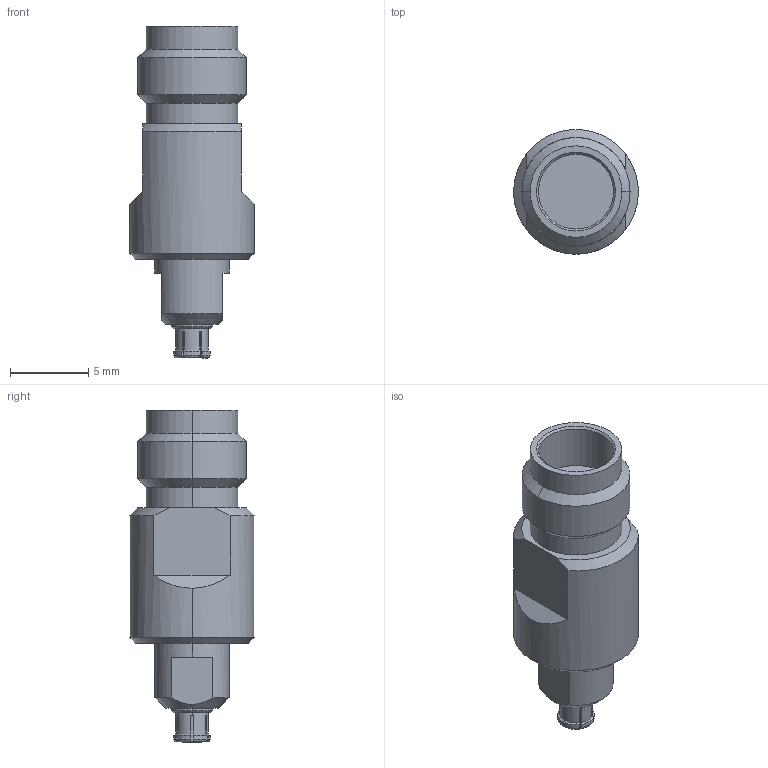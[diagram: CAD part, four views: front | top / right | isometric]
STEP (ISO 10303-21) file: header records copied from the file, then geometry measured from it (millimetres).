
FILE_DESCRIPTION (( 'STEP AP214' ), '1' );
FILE_NAME ('SF1133-6007.STEP', '2018-09-18T13:25:41', ( '' ), ( '' ), 'SwSTEP 2.0', 'SolidWorks 2016', '' );
FILE_SCHEMA (( 'AUTOMOTIVE_DESIGN' ));
Length unit declared in the file: inch
Products named in the file (1): SF1133-6007
Bounding box: 7.95 x 7.95 x 21.18 mm (x, y, z)
Volume: 618.7 mm3; surface area: 547.9 mm2
Topology: 1 solids, 1 shells, 87 faces, 226 edges, 146 vertices
Faces by surface type: plane 33, cylinder 28, cone 20, torus 6
Entity records: 3860 total; most frequent: CARTESIAN_POINT 640, DIRECTION 454, ORIENTED_EDGE 452, EDGE_CURVE 226, AXIS2_PLACEMENT_3D 176, VERTEX_POINT 146, VECTOR 102, LINE 102
